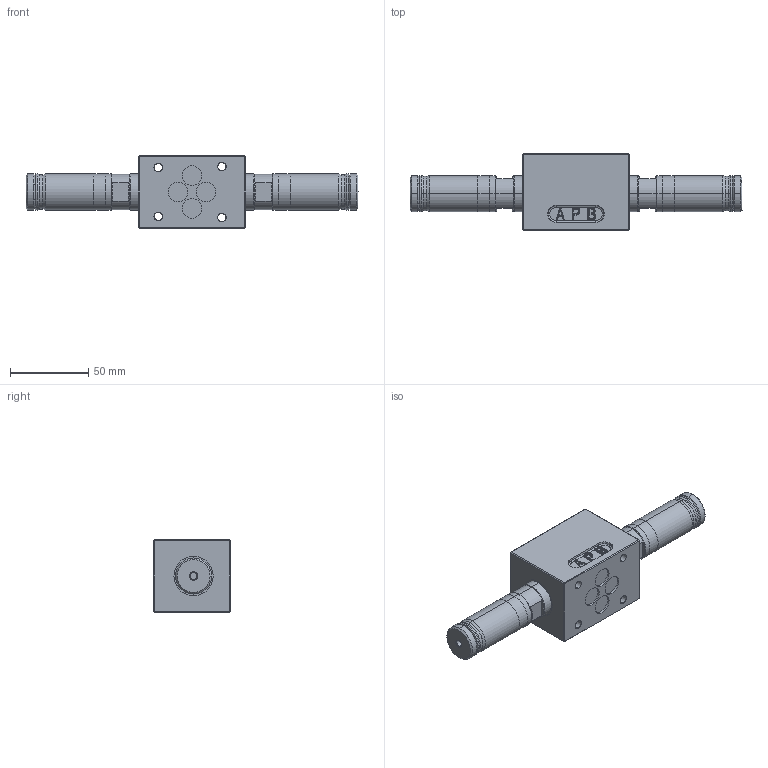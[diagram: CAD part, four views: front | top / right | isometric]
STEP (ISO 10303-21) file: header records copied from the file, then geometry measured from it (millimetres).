
FILE_DESCRIPTION (( 'STEP AP214' ), '1' );
FILE_NAME ('WDPFA06.STEP', '2014-03-19T09:59:25', ( '' ), ( '' ), 'SwSTEP 2.0', 'SolidWorks 2012', '' );
FILE_SCHEMA (( 'AUTOMOTIVE_DESIGN' ));
Products named in the file (1): WDPFA06
Bounding box: 211.6 x 49 x 46 mm (x, y, z)
Volume: 204398.6 mm3; surface area: 45694.4 mm2
Topology: 11 solids, 11 shells, 1768 faces, 4822 edges, 3101 vertices
Faces by surface type: plane 1126, cylinder 410, cone 94, torus 84, bspline 36, sphere 18
Entity records: 77160 total; most frequent: CARTESIAN_POINT 11886, DIRECTION 9782, ORIENTED_EDGE 9602, EDGE_CURVE 4801, AXIS2_PLACEMENT_3D 3404, VERTEX_POINT 3101, LINE 2974, VECTOR 2974
